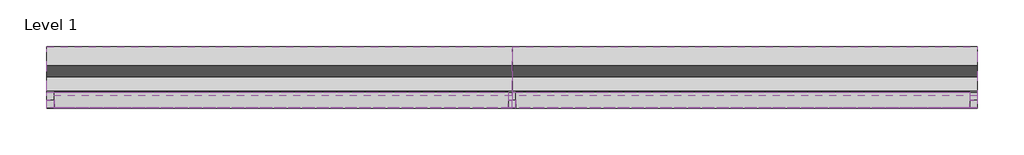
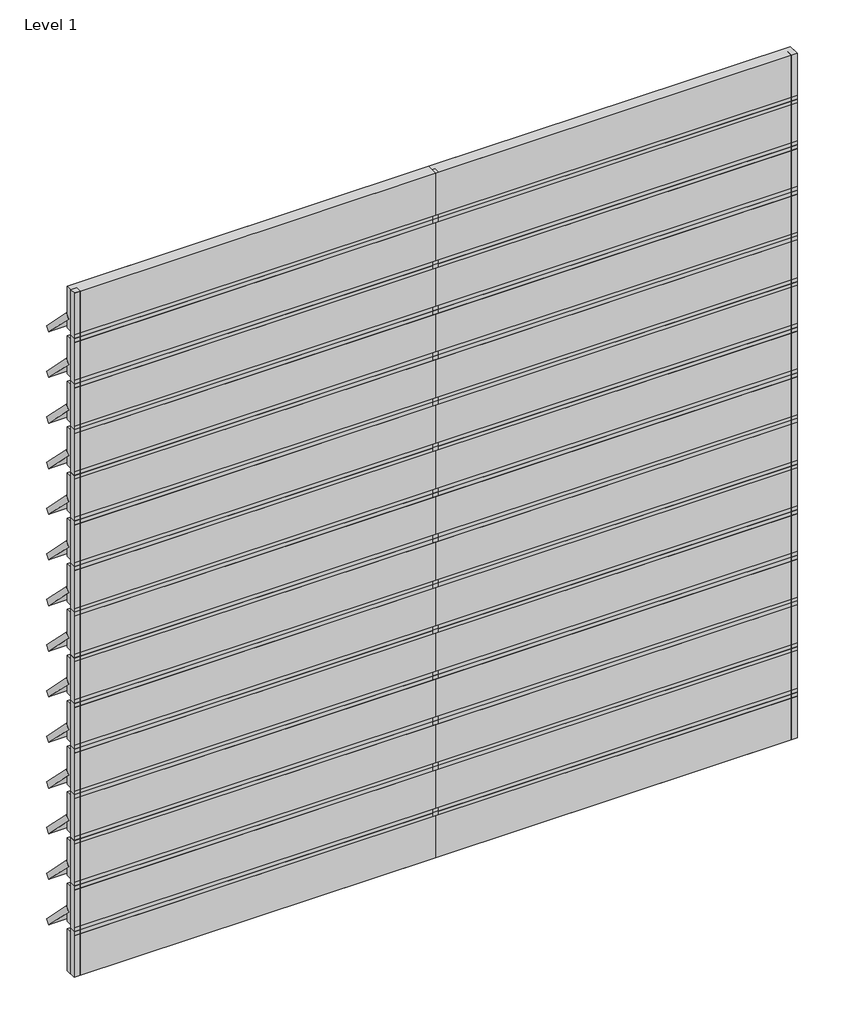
# One storey: 73 members, 60 plates.
"""IFC4 building model written with IfcOpenShell, lengths in millimetres."""

from ifc_helpers import new_model, si_unit, origin, place, context, project, spatial, transform, mapped, element, save
from components import rectangular_mullion_57607088, rectangular_mullion_3c6e38bc, rectangular_mullion_05cc9e47, rectangular_mullion_4a4034a1, empty_system_panel_empty_12cb41e9, empty_system_panel_empty_d99c1c9e, empty_system_panel_empty_0ce9900c

model = new_model("IFC4")

# Units and contexts
model_context = context("Model", 3, world=origin())
ifc_project = project(units=[si_unit("LENGTHUNIT", "METRE", prefix="MILLI")], contexts=[model_context])

# Site, building, storey
site = spatial("IfcSite", under=ifc_project)
building = spatial("IfcBuilding", under=site)
storey = spatial("IfcBuildingStorey", under=building, Name="Level 1", Elevation=0.0)

# Members
placement = place(None, origin())
rectangular_mullion_shape = rectangular_mullion_57607088(model_context)
element("IfcMember", 1, ObjectType="Rectangular Mullion : RSen_21_CWM_blade - cubic 400 - 45°_gen_duco projects", at=placement, inside=storey, context=model_context, shape_type="MappedRepresentation", body=[
    mapped(rectangular_mullion_shape, transform((3000.0, 3000.0, 400.0), x_axis=(0.0, 0.0, 1.0), y_axis=(0.0, 1.0, 0.0), z_axis=(-1.0, 0.0, 0.0))),
])
element("IfcMember", 2, ObjectType="Rectangular Mullion : RSen_21_CWM_blade - cubic 400 - 45°_gen_duco projects", at=placement, inside=storey, context=model_context, shape_type="MappedRepresentation", body=[
    mapped(rectangular_mullion_shape, transform((3000.0, 3000.0, 800.0), x_axis=(0.0, 0.0, 1.0), y_axis=(0.0, 1.0, 0.0), z_axis=(-1.0, 0.0, 0.0))),
])
element("IfcMember", 3, ObjectType="Rectangular Mullion : RSen_21_CWM_blade - cubic 400 - 45°_gen_duco projects", at=placement, inside=storey, context=model_context, shape_type="MappedRepresentation", body=[
    mapped(rectangular_mullion_shape, transform((3000.0, 3000.0, 1200.0), x_axis=(0.0, 0.0, 1.0), y_axis=(0.0, 1.0, 0.0), z_axis=(-1.0, 0.0, 0.0))),
])
element("IfcMember", 4, ObjectType="Rectangular Mullion : RSen_21_CWM_blade - cubic 400 - 45°_gen_duco projects", at=placement, inside=storey, context=model_context, shape_type="MappedRepresentation", body=[
    mapped(rectangular_mullion_shape, transform((3000.0, 3000.0, 1600.0), x_axis=(0.0, 0.0, 1.0), y_axis=(0.0, 1.0, 0.0), z_axis=(-1.0, 0.0, 0.0))),
])
element("IfcMember", 5, ObjectType="Rectangular Mullion : RSen_21_CWM_blade - cubic 400 - 45°_gen_duco projects", at=placement, inside=storey, context=model_context, shape_type="MappedRepresentation", body=[
    mapped(rectangular_mullion_shape, transform((3000.0, 3000.0, 2000.0), x_axis=(0.0, 0.0, 1.0), y_axis=(0.0, 1.0, 0.0), z_axis=(-1.0, 0.0, 0.0))),
])
element("IfcMember", 6, ObjectType="Rectangular Mullion : RSen_21_CWM_blade - cubic 400 - 45°_gen_duco projects", at=placement, inside=storey, context=model_context, shape_type="MappedRepresentation", body=[
    mapped(rectangular_mullion_shape, transform((3000.0, 3000.0, 2400.0), x_axis=(0.0, 0.0, 1.0), y_axis=(0.0, 1.0, 0.0), z_axis=(-1.0, 0.0, 0.0))),
])
element("IfcMember", 7, ObjectType="Rectangular Mullion : RSen_21_CWM_blade - cubic 400 - 45°_gen_duco projects", at=placement, inside=storey, context=model_context, shape_type="MappedRepresentation", body=[
    mapped(rectangular_mullion_shape, transform((3000.0, 3000.0, 2800.0), x_axis=(0.0, 0.0, 1.0), y_axis=(0.0, 1.0, 0.0), z_axis=(-1.0, 0.0, 0.0))),
])
element("IfcMember", 8, ObjectType="Rectangular Mullion : RSen_21_CWM_blade - cubic 400 - 45°_gen_duco projects", at=placement, inside=storey, context=model_context, shape_type="MappedRepresentation", body=[
    mapped(rectangular_mullion_shape, transform((3000.0, 3000.0, 3200.0), x_axis=(0.0, 0.0, 1.0), y_axis=(0.0, 1.0, 0.0), z_axis=(-1.0, 0.0, 0.0))),
])
element("IfcMember", 9, ObjectType="Rectangular Mullion : RSen_21_CWM_blade - cubic 400 - 45°_gen_duco projects", at=placement, inside=storey, context=model_context, shape_type="MappedRepresentation", body=[
    mapped(rectangular_mullion_shape, transform((3000.0, 3000.0, 3600.0), x_axis=(0.0, 0.0, 1.0), y_axis=(0.0, 1.0, 0.0), z_axis=(-1.0, 0.0, 0.0))),
])
element("IfcMember", 10, ObjectType="Rectangular Mullion : RSen_21_CWM_blade - cubic 400 - 45°_gen_duco projects", at=placement, inside=storey, context=model_context, shape_type="MappedRepresentation", body=[
    mapped(rectangular_mullion_shape, transform((3000.0, 3000.0, 4000.0), x_axis=(0.0, 0.0, 1.0), y_axis=(0.0, 1.0, 0.0), z_axis=(-1.0, 0.0, 0.0))),
])
element("IfcMember", 11, ObjectType="Rectangular Mullion : RSen_21_CWM_blade - cubic 400 - 45°_gen_duco projects", at=placement, inside=storey, context=model_context, shape_type="MappedRepresentation", body=[
    mapped(rectangular_mullion_shape, transform((3000.0, 3000.0, 4400.0), x_axis=(0.0, 0.0, 1.0), y_axis=(0.0, 1.0, 0.0), z_axis=(-1.0, 0.0, 0.0))),
])
element("IfcMember", 12, ObjectType="Rectangular Mullion : RSen_21_CWM_blade - cubic 400 - 45°_gen_duco projects", at=placement, inside=storey, context=model_context, shape_type="MappedRepresentation", body=[
    mapped(rectangular_mullion_shape, transform((3000.0, 3000.0, 4800.0), x_axis=(0.0, 0.0, 1.0), y_axis=(0.0, 1.0, 0.0), z_axis=(-1.0, 0.0, 0.0))),
])
element("IfcMember", 13, ObjectType="Rectangular Mullion : RSen_21_CWM_blade - cubic 400 - 45°_gen_duco projects", at=placement, inside=storey, context=model_context, shape_type="MappedRepresentation", body=[
    mapped(rectangular_mullion_shape, transform((3000.0, 3000.0, 5200.0), x_axis=(0.0, 0.0, 1.0), y_axis=(0.0, 1.0, 0.0), z_axis=(-1.0, 0.0, 0.0))),
])
element("IfcMember", 14, ObjectType="Rectangular Mullion : RSen_21_CWM_blade - cubic 400 - 45°_gen_duco projects", at=placement, inside=storey, context=model_context, shape_type="MappedRepresentation", body=[
    mapped(rectangular_mullion_shape, transform((3000.0, 3000.0, 5600.0), x_axis=(0.0, 0.0, 1.0), y_axis=(0.0, 1.0, 0.0), z_axis=(-1.0, 0.0, 0.0))),
])
element("IfcMember", 15, ObjectType="Rectangular Mullion : RSen_21_CWM_blade - cubic 400 - 45°_gen_duco projects", at=placement, inside=storey, context=model_context, shape_type="MappedRepresentation", body=[
    mapped(rectangular_mullion_shape, transform((0.0, 3000.0, 400.0), x_axis=(0.0, 0.0, 1.0), y_axis=(0.0, 1.0, 0.0), z_axis=(-1.0, 0.0, 0.0))),
])
element("IfcMember", 16, ObjectType="Rectangular Mullion : RSen_21_CWM_blade - cubic 400 - 45°_gen_duco projects", at=placement, inside=storey, context=model_context, shape_type="MappedRepresentation", body=[
    mapped(rectangular_mullion_shape, transform((0.0, 3000.0, 800.0), x_axis=(0.0, 0.0, 1.0), y_axis=(0.0, 1.0, 0.0), z_axis=(-1.0, 0.0, 0.0))),
])
element("IfcMember", 17, ObjectType="Rectangular Mullion : RSen_21_CWM_blade - cubic 400 - 45°_gen_duco projects", at=placement, inside=storey, context=model_context, shape_type="MappedRepresentation", body=[
    mapped(rectangular_mullion_shape, transform((0.0, 3000.0, 1200.0), x_axis=(0.0, 0.0, 1.0), y_axis=(0.0, 1.0, 0.0), z_axis=(-1.0, 0.0, 0.0))),
])
element("IfcMember", 18, ObjectType="Rectangular Mullion : RSen_21_CWM_blade - cubic 400 - 45°_gen_duco projects", at=placement, inside=storey, context=model_context, shape_type="MappedRepresentation", body=[
    mapped(rectangular_mullion_shape, transform((0.0, 3000.0, 1600.0), x_axis=(0.0, 0.0, 1.0), y_axis=(0.0, 1.0, 0.0), z_axis=(-1.0, 0.0, 0.0))),
])
element("IfcMember", 19, ObjectType="Rectangular Mullion : RSen_21_CWM_blade - cubic 400 - 45°_gen_duco projects", at=placement, inside=storey, context=model_context, shape_type="MappedRepresentation", body=[
    mapped(rectangular_mullion_shape, transform((0.0, 3000.0, 2000.0), x_axis=(0.0, 0.0, 1.0), y_axis=(0.0, 1.0, 0.0), z_axis=(-1.0, 0.0, 0.0))),
])
element("IfcMember", 20, ObjectType="Rectangular Mullion : RSen_21_CWM_blade - cubic 400 - 45°_gen_duco projects", at=placement, inside=storey, context=model_context, shape_type="MappedRepresentation", body=[
    mapped(rectangular_mullion_shape, transform((0.0, 3000.0, 2400.0), x_axis=(0.0, 0.0, 1.0), y_axis=(0.0, 1.0, 0.0), z_axis=(-1.0, 0.0, 0.0))),
])
element("IfcMember", 21, ObjectType="Rectangular Mullion : RSen_21_CWM_blade - cubic 400 - 45°_gen_duco projects", at=placement, inside=storey, context=model_context, shape_type="MappedRepresentation", body=[
    mapped(rectangular_mullion_shape, transform((0.0, 3000.0, 2800.0), x_axis=(0.0, 0.0, 1.0), y_axis=(0.0, 1.0, 0.0), z_axis=(-1.0, 0.0, 0.0))),
])
element("IfcMember", 22, ObjectType="Rectangular Mullion : RSen_21_CWM_blade - cubic 400 - 45°_gen_duco projects", at=placement, inside=storey, context=model_context, shape_type="MappedRepresentation", body=[
    mapped(rectangular_mullion_shape, transform((0.0, 3000.0, 3200.0), x_axis=(0.0, 0.0, 1.0), y_axis=(0.0, 1.0, 0.0), z_axis=(-1.0, 0.0, 0.0))),
])
element("IfcMember", 23, ObjectType="Rectangular Mullion : RSen_21_CWM_blade - cubic 400 - 45°_gen_duco projects", at=placement, inside=storey, context=model_context, shape_type="MappedRepresentation", body=[
    mapped(rectangular_mullion_shape, transform((0.0, 3000.0, 3600.0), x_axis=(0.0, 0.0, 1.0), y_axis=(0.0, 1.0, 0.0), z_axis=(-1.0, 0.0, 0.0))),
])
element("IfcMember", 24, ObjectType="Rectangular Mullion : RSen_21_CWM_blade - cubic 400 - 45°_gen_duco projects", at=placement, inside=storey, context=model_context, shape_type="MappedRepresentation", body=[
    mapped(rectangular_mullion_shape, transform((0.0, 3000.0, 4000.0), x_axis=(0.0, 0.0, 1.0), y_axis=(0.0, 1.0, 0.0), z_axis=(-1.0, 0.0, 0.0))),
])
element("IfcMember", 25, ObjectType="Rectangular Mullion : RSen_21_CWM_blade - cubic 400 - 45°_gen_duco projects", at=placement, inside=storey, context=model_context, shape_type="MappedRepresentation", body=[
    mapped(rectangular_mullion_shape, transform((0.0, 3000.0, 4400.0), x_axis=(0.0, 0.0, 1.0), y_axis=(0.0, 1.0, 0.0), z_axis=(-1.0, 0.0, 0.0))),
])
element("IfcMember", 26, ObjectType="Rectangular Mullion : RSen_21_CWM_blade - cubic 400 - 45°_gen_duco projects", at=placement, inside=storey, context=model_context, shape_type="MappedRepresentation", body=[
    mapped(rectangular_mullion_shape, transform((0.0, 3000.0, 4800.0), x_axis=(0.0, 0.0, 1.0), y_axis=(0.0, 1.0, 0.0), z_axis=(-1.0, 0.0, 0.0))),
])
element("IfcMember", 27, ObjectType="Rectangular Mullion : RSen_21_CWM_blade - cubic 400 - 45°_gen_duco projects", at=placement, inside=storey, context=model_context, shape_type="MappedRepresentation", body=[
    mapped(rectangular_mullion_shape, transform((0.0, 3000.0, 5200.0), x_axis=(0.0, 0.0, 1.0), y_axis=(0.0, 1.0, 0.0), z_axis=(-1.0, 0.0, 0.0))),
])
element("IfcMember", 28, ObjectType="Rectangular Mullion : RSen_21_CWM_blade - cubic 400 - 45°_gen_duco projects", at=placement, inside=storey, context=model_context, shape_type="MappedRepresentation", body=[
    mapped(rectangular_mullion_shape, transform((0.0, 3000.0, 5600.0), x_axis=(0.0, 0.0, 1.0), y_axis=(0.0, 1.0, 0.0), z_axis=(-1.0, 0.0, 0.0))),
])
rectangular_mullion_2_shape = rectangular_mullion_3c6e38bc(model_context)
element("IfcMember", 29, ObjectType="Rectangular Mullion : RSen_21_CWM_support profile 50x50_gen_duco projects", at=placement, inside=storey, context=model_context, shape_type="MappedRepresentation", body=[
    mapped(rectangular_mullion_2_shape, transform((3000.0, 3000.0, 0.0), x_axis=(-1.0, 0.0, 0.0), y_axis=(0.0, 1.0, 0.0), z_axis=(0.0, 0.0, -1.0))),
])
element("IfcMember", 30, ObjectType="Rectangular Mullion : RSen_21_CWM_support profile 50x50_gen_duco projects", at=placement, inside=storey, context=model_context, shape_type="MappedRepresentation", body=[
    mapped(rectangular_mullion_2_shape, transform((3000.0, 3000.0, 400.0), x_axis=(-1.0, 0.0, 0.0), y_axis=(0.0, 1.0, 0.0), z_axis=(0.0, 0.0, -1.0))),
])
element("IfcMember", 31, ObjectType="Rectangular Mullion : RSen_21_CWM_support profile 50x50_gen_duco projects", at=placement, inside=storey, context=model_context, shape_type="MappedRepresentation", body=[
    mapped(rectangular_mullion_2_shape, transform((3000.0, 3000.0, 800.0), x_axis=(-1.0, 0.0, 0.0), y_axis=(0.0, 1.0, 0.0), z_axis=(0.0, 0.0, -1.0))),
])
element("IfcMember", 32, ObjectType="Rectangular Mullion : RSen_21_CWM_support profile 50x50_gen_duco projects", at=placement, inside=storey, context=model_context, shape_type="MappedRepresentation", body=[
    mapped(rectangular_mullion_2_shape, transform((3000.0, 3000.0, 1200.0), x_axis=(-1.0, 0.0, 0.0), y_axis=(0.0, 1.0, 0.0), z_axis=(0.0, 0.0, -1.0))),
])
element("IfcMember", 33, ObjectType="Rectangular Mullion : RSen_21_CWM_support profile 50x50_gen_duco projects", at=placement, inside=storey, context=model_context, shape_type="MappedRepresentation", body=[
    mapped(rectangular_mullion_2_shape, transform((3000.0, 3000.0, 1600.0), x_axis=(-1.0, 0.0, 0.0), y_axis=(0.0, 1.0, 0.0), z_axis=(0.0, 0.0, -1.0))),
])
element("IfcMember", 34, ObjectType="Rectangular Mullion : RSen_21_CWM_support profile 50x50_gen_duco projects", at=placement, inside=storey, context=model_context, shape_type="MappedRepresentation", body=[
    mapped(rectangular_mullion_2_shape, transform((3000.0, 3000.0, 2000.0), x_axis=(-1.0, 0.0, 0.0), y_axis=(0.0, 1.0, 0.0), z_axis=(0.0, 0.0, -1.0))),
])
element("IfcMember", 35, ObjectType="Rectangular Mullion : RSen_21_CWM_support profile 50x50_gen_duco projects", at=placement, inside=storey, context=model_context, shape_type="MappedRepresentation", body=[
    mapped(rectangular_mullion_2_shape, transform((3000.0, 3000.0, 2400.0), x_axis=(-1.0, 0.0, 0.0), y_axis=(0.0, 1.0, 0.0), z_axis=(0.0, 0.0, -1.0))),
])
element("IfcMember", 36, ObjectType="Rectangular Mullion : RSen_21_CWM_support profile 50x50_gen_duco projects", at=placement, inside=storey, context=model_context, shape_type="MappedRepresentation", body=[
    mapped(rectangular_mullion_2_shape, transform((3000.0, 3000.0, 2800.0), x_axis=(-1.0, 0.0, 0.0), y_axis=(0.0, 1.0, 0.0), z_axis=(0.0, 0.0, -1.0))),
])
element("IfcMember", 37, ObjectType="Rectangular Mullion : RSen_21_CWM_support profile 50x50_gen_duco projects", at=placement, inside=storey, context=model_context, shape_type="MappedRepresentation", body=[
    mapped(rectangular_mullion_2_shape, transform((3000.0, 3000.0, 3200.0), x_axis=(-1.0, 0.0, 0.0), y_axis=(0.0, 1.0, 0.0), z_axis=(0.0, 0.0, -1.0))),
])
element("IfcMember", 38, ObjectType="Rectangular Mullion : RSen_21_CWM_support profile 50x50_gen_duco projects", at=placement, inside=storey, context=model_context, shape_type="MappedRepresentation", body=[
    mapped(rectangular_mullion_2_shape, transform((3000.0, 3000.0, 3600.0), x_axis=(-1.0, 0.0, 0.0), y_axis=(0.0, 1.0, 0.0), z_axis=(0.0, 0.0, -1.0))),
])
element("IfcMember", 39, ObjectType="Rectangular Mullion : RSen_21_CWM_support profile 50x50_gen_duco projects", at=placement, inside=storey, context=model_context, shape_type="MappedRepresentation", body=[
    mapped(rectangular_mullion_2_shape, transform((3000.0, 3000.0, 4000.0), x_axis=(-1.0, 0.0, 0.0), y_axis=(0.0, 1.0, 0.0), z_axis=(0.0, 0.0, -1.0))),
])
element("IfcMember", 40, ObjectType="Rectangular Mullion : RSen_21_CWM_support profile 50x50_gen_duco projects", at=placement, inside=storey, context=model_context, shape_type="MappedRepresentation", body=[
    mapped(rectangular_mullion_2_shape, transform((3000.0, 3000.0, 4400.0), x_axis=(-1.0, 0.0, 0.0), y_axis=(0.0, 1.0, 0.0), z_axis=(0.0, 0.0, -1.0))),
])
element("IfcMember", 41, ObjectType="Rectangular Mullion : RSen_21_CWM_support profile 50x50_gen_duco projects", at=placement, inside=storey, context=model_context, shape_type="MappedRepresentation", body=[
    mapped(rectangular_mullion_2_shape, transform((3000.0, 3000.0, 4800.0), x_axis=(-1.0, 0.0, 0.0), y_axis=(0.0, 1.0, 0.0), z_axis=(0.0, 0.0, -1.0))),
])
element("IfcMember", 42, ObjectType="Rectangular Mullion : RSen_21_CWM_support profile 50x50_gen_duco projects", at=placement, inside=storey, context=model_context, shape_type="MappedRepresentation", body=[
    mapped(rectangular_mullion_2_shape, transform((3000.0, 3000.0, 5200.0), x_axis=(-1.0, 0.0, 0.0), y_axis=(0.0, 1.0, 0.0), z_axis=(0.0, 0.0, -1.0))),
])
element("IfcMember", 43, ObjectType="Rectangular Mullion : RSen_21_CWM_support profile 50x50_gen_duco projects", at=placement, inside=storey, context=model_context, shape_type="MappedRepresentation", body=[
    mapped(rectangular_mullion_2_shape, transform((3000.0, 3000.0, 5600.0), x_axis=(-1.0, 0.0, 0.0), y_axis=(0.0, 1.0, 0.0), z_axis=(0.0, 0.0, -1.0))),
])
rectangular_mullion_3_shape = rectangular_mullion_05cc9e47(model_context)
element("IfcMember", 44, ObjectType="Rectangular Mullion : RSen_21_CWM_support profile 50x50 - left_gen_duco projects", at=placement, inside=storey, context=model_context, shape_type="MappedRepresentation", body=[
    mapped(rectangular_mullion_3_shape, transform((0.0, 3000.0, 0.0), x_axis=(-1.0, 0.0, 0.0), y_axis=(0.0, 1.0, 0.0), z_axis=(0.0, 0.0, -1.0))),
])
rectangular_mullion_4_shape = rectangular_mullion_4a4034a1(model_context)
element("IfcMember", 45, ObjectType="Rectangular Mullion : RSen_21_CWM_support profile 50x50 - right_gen_duco projects", at=placement, inside=storey, context=model_context, shape_type="MappedRepresentation", body=[
    mapped(rectangular_mullion_4_shape, transform((6000.0, 3000.0, 6000.0), x_axis=(1.0, 0.0, 0.0), y_axis=(0.0, 1.0, 0.0), z_axis=(0.0, 0.0, 1.0))),
])
element("IfcMember", 46, ObjectType="Rectangular Mullion : RSen_21_CWM_support profile 50x50 - left_gen_duco projects", at=placement, inside=storey, context=model_context, shape_type="MappedRepresentation", body=[
    mapped(rectangular_mullion_3_shape, transform((0.0, 3000.0, 400.0), x_axis=(-1.0, 0.0, 0.0), y_axis=(0.0, 1.0, 0.0), z_axis=(0.0, 0.0, -1.0))),
])
element("IfcMember", 47, ObjectType="Rectangular Mullion : RSen_21_CWM_support profile 50x50 - left_gen_duco projects", at=placement, inside=storey, context=model_context, shape_type="MappedRepresentation", body=[
    mapped(rectangular_mullion_3_shape, transform((0.0, 3000.0, 800.0), x_axis=(-1.0, 0.0, 0.0), y_axis=(0.0, 1.0, 0.0), z_axis=(0.0, 0.0, -1.0))),
])
element("IfcMember", 48, ObjectType="Rectangular Mullion : RSen_21_CWM_support profile 50x50 - left_gen_duco projects", at=placement, inside=storey, context=model_context, shape_type="MappedRepresentation", body=[
    mapped(rectangular_mullion_3_shape, transform((0.0, 3000.0, 1200.0), x_axis=(-1.0, 0.0, 0.0), y_axis=(0.0, 1.0, 0.0), z_axis=(0.0, 0.0, -1.0))),
])
element("IfcMember", 49, ObjectType="Rectangular Mullion : RSen_21_CWM_support profile 50x50 - left_gen_duco projects", at=placement, inside=storey, context=model_context, shape_type="MappedRepresentation", body=[
    mapped(rectangular_mullion_3_shape, transform((0.0, 3000.0, 1600.0), x_axis=(-1.0, 0.0, 0.0), y_axis=(0.0, 1.0, 0.0), z_axis=(0.0, 0.0, -1.0))),
])
element("IfcMember", 50, ObjectType="Rectangular Mullion : RSen_21_CWM_support profile 50x50 - left_gen_duco projects", at=placement, inside=storey, context=model_context, shape_type="MappedRepresentation", body=[
    mapped(rectangular_mullion_3_shape, transform((0.0, 3000.0, 2000.0), x_axis=(-1.0, 0.0, 0.0), y_axis=(0.0, 1.0, 0.0), z_axis=(0.0, 0.0, -1.0))),
])
element("IfcMember", 51, ObjectType="Rectangular Mullion : RSen_21_CWM_support profile 50x50 - left_gen_duco projects", at=placement, inside=storey, context=model_context, shape_type="MappedRepresentation", body=[
    mapped(rectangular_mullion_3_shape, transform((0.0, 3000.0, 2400.0), x_axis=(-1.0, 0.0, 0.0), y_axis=(0.0, 1.0, 0.0), z_axis=(0.0, 0.0, -1.0))),
])
element("IfcMember", 52, ObjectType="Rectangular Mullion : RSen_21_CWM_support profile 50x50 - left_gen_duco projects", at=placement, inside=storey, context=model_context, shape_type="MappedRepresentation", body=[
    mapped(rectangular_mullion_3_shape, transform((0.0, 3000.0, 2800.0), x_axis=(-1.0, 0.0, 0.0), y_axis=(0.0, 1.0, 0.0), z_axis=(0.0, 0.0, -1.0))),
])
element("IfcMember", 53, ObjectType="Rectangular Mullion : RSen_21_CWM_support profile 50x50 - left_gen_duco projects", at=placement, inside=storey, context=model_context, shape_type="MappedRepresentation", body=[
    mapped(rectangular_mullion_3_shape, transform((0.0, 3000.0, 3200.0), x_axis=(-1.0, 0.0, 0.0), y_axis=(0.0, 1.0, 0.0), z_axis=(0.0, 0.0, -1.0))),
])
element("IfcMember", 54, ObjectType="Rectangular Mullion : RSen_21_CWM_support profile 50x50 - left_gen_duco projects", at=placement, inside=storey, context=model_context, shape_type="MappedRepresentation", body=[
    mapped(rectangular_mullion_3_shape, transform((0.0, 3000.0, 3600.0), x_axis=(-1.0, 0.0, 0.0), y_axis=(0.0, 1.0, 0.0), z_axis=(0.0, 0.0, -1.0))),
])
element("IfcMember", 55, ObjectType="Rectangular Mullion : RSen_21_CWM_support profile 50x50 - left_gen_duco projects", at=placement, inside=storey, context=model_context, shape_type="MappedRepresentation", body=[
    mapped(rectangular_mullion_3_shape, transform((0.0, 3000.0, 4000.0), x_axis=(-1.0, 0.0, 0.0), y_axis=(0.0, 1.0, 0.0), z_axis=(0.0, 0.0, -1.0))),
])
element("IfcMember", 56, ObjectType="Rectangular Mullion : RSen_21_CWM_support profile 50x50 - left_gen_duco projects", at=placement, inside=storey, context=model_context, shape_type="MappedRepresentation", body=[
    mapped(rectangular_mullion_3_shape, transform((0.0, 3000.0, 4400.0), x_axis=(-1.0, 0.0, 0.0), y_axis=(0.0, 1.0, 0.0), z_axis=(0.0, 0.0, -1.0))),
])
element("IfcMember", 57, ObjectType="Rectangular Mullion : RSen_21_CWM_support profile 50x50 - left_gen_duco projects", at=placement, inside=storey, context=model_context, shape_type="MappedRepresentation", body=[
    mapped(rectangular_mullion_3_shape, transform((0.0, 3000.0, 4800.0), x_axis=(-1.0, 0.0, 0.0), y_axis=(0.0, 1.0, 0.0), z_axis=(0.0, 0.0, -1.0))),
])
element("IfcMember", 58, ObjectType="Rectangular Mullion : RSen_21_CWM_support profile 50x50 - left_gen_duco projects", at=placement, inside=storey, context=model_context, shape_type="MappedRepresentation", body=[
    mapped(rectangular_mullion_3_shape, transform((0.0, 3000.0, 5200.0), x_axis=(-1.0, 0.0, 0.0), y_axis=(0.0, 1.0, 0.0), z_axis=(0.0, 0.0, -1.0))),
])
element("IfcMember", 59, ObjectType="Rectangular Mullion : RSen_21_CWM_support profile 50x50 - left_gen_duco projects", at=placement, inside=storey, context=model_context, shape_type="MappedRepresentation", body=[
    mapped(rectangular_mullion_3_shape, transform((0.0, 3000.0, 5600.0), x_axis=(-1.0, 0.0, 0.0), y_axis=(0.0, 1.0, 0.0), z_axis=(0.0, 0.0, -1.0))),
])
element("IfcMember", 60, ObjectType="Rectangular Mullion : RSen_21_CWM_support profile 50x50 - right_gen_duco projects", at=placement, inside=storey, context=model_context, shape_type="MappedRepresentation", body=[
    mapped(rectangular_mullion_4_shape, transform((6000.0, 3000.0, 400.0), x_axis=(1.0, 0.0, 0.0), y_axis=(0.0, 1.0, 0.0), z_axis=(0.0, 0.0, 1.0))),
])
element("IfcMember", 61, ObjectType="Rectangular Mullion : RSen_21_CWM_support profile 50x50 - right_gen_duco projects", at=placement, inside=storey, context=model_context, shape_type="MappedRepresentation", body=[
    mapped(rectangular_mullion_4_shape, transform((6000.0, 3000.0, 800.0), x_axis=(1.0, 0.0, 0.0), y_axis=(0.0, 1.0, 0.0), z_axis=(0.0, 0.0, 1.0))),
])
element("IfcMember", 62, ObjectType="Rectangular Mullion : RSen_21_CWM_support profile 50x50 - right_gen_duco projects", at=placement, inside=storey, context=model_context, shape_type="MappedRepresentation", body=[
    mapped(rectangular_mullion_4_shape, transform((6000.0, 3000.0, 1200.0), x_axis=(1.0, 0.0, 0.0), y_axis=(0.0, 1.0, 0.0), z_axis=(0.0, 0.0, 1.0))),
])
element("IfcMember", 63, ObjectType="Rectangular Mullion : RSen_21_CWM_support profile 50x50 - right_gen_duco projects", at=placement, inside=storey, context=model_context, shape_type="MappedRepresentation", body=[
    mapped(rectangular_mullion_4_shape, transform((6000.0, 3000.0, 1600.0), x_axis=(1.0, 0.0, 0.0), y_axis=(0.0, 1.0, 0.0), z_axis=(0.0, 0.0, 1.0))),
])
element("IfcMember", 64, ObjectType="Rectangular Mullion : RSen_21_CWM_support profile 50x50 - right_gen_duco projects", at=placement, inside=storey, context=model_context, shape_type="MappedRepresentation", body=[
    mapped(rectangular_mullion_4_shape, transform((6000.0, 3000.0, 2000.0), x_axis=(1.0, 0.0, 0.0), y_axis=(0.0, 1.0, 0.0), z_axis=(0.0, 0.0, 1.0))),
])
element("IfcMember", 65, ObjectType="Rectangular Mullion : RSen_21_CWM_support profile 50x50 - right_gen_duco projects", at=placement, inside=storey, context=model_context, shape_type="MappedRepresentation", body=[
    mapped(rectangular_mullion_4_shape, transform((6000.0, 3000.0, 2400.0), x_axis=(1.0, 0.0, 0.0), y_axis=(0.0, 1.0, 0.0), z_axis=(0.0, 0.0, 1.0))),
])
element("IfcMember", 66, ObjectType="Rectangular Mullion : RSen_21_CWM_support profile 50x50 - right_gen_duco projects", at=placement, inside=storey, context=model_context, shape_type="MappedRepresentation", body=[
    mapped(rectangular_mullion_4_shape, transform((6000.0, 3000.0, 2800.0), x_axis=(1.0, 0.0, 0.0), y_axis=(0.0, 1.0, 0.0), z_axis=(0.0, 0.0, 1.0))),
])
element("IfcMember", 67, ObjectType="Rectangular Mullion : RSen_21_CWM_support profile 50x50 - right_gen_duco projects", at=placement, inside=storey, context=model_context, shape_type="MappedRepresentation", body=[
    mapped(rectangular_mullion_4_shape, transform((6000.0, 3000.0, 3200.0), x_axis=(1.0, 0.0, 0.0), y_axis=(0.0, 1.0, 0.0), z_axis=(0.0, 0.0, 1.0))),
])
element("IfcMember", 68, ObjectType="Rectangular Mullion : RSen_21_CWM_support profile 50x50 - right_gen_duco projects", at=placement, inside=storey, context=model_context, shape_type="MappedRepresentation", body=[
    mapped(rectangular_mullion_4_shape, transform((6000.0, 3000.0, 3600.0), x_axis=(1.0, 0.0, 0.0), y_axis=(0.0, 1.0, 0.0), z_axis=(0.0, 0.0, 1.0))),
])
element("IfcMember", 69, ObjectType="Rectangular Mullion : RSen_21_CWM_support profile 50x50 - right_gen_duco projects", at=placement, inside=storey, context=model_context, shape_type="MappedRepresentation", body=[
    mapped(rectangular_mullion_4_shape, transform((6000.0, 3000.0, 4000.0), x_axis=(1.0, 0.0, 0.0), y_axis=(0.0, 1.0, 0.0), z_axis=(0.0, 0.0, 1.0))),
])
element("IfcMember", 70, ObjectType="Rectangular Mullion : RSen_21_CWM_support profile 50x50 - right_gen_duco projects", at=placement, inside=storey, context=model_context, shape_type="MappedRepresentation", body=[
    mapped(rectangular_mullion_4_shape, transform((6000.0, 3000.0, 4400.0), x_axis=(1.0, 0.0, 0.0), y_axis=(0.0, 1.0, 0.0), z_axis=(0.0, 0.0, 1.0))),
])
element("IfcMember", 71, ObjectType="Rectangular Mullion : RSen_21_CWM_support profile 50x50 - right_gen_duco projects", at=placement, inside=storey, context=model_context, shape_type="MappedRepresentation", body=[
    mapped(rectangular_mullion_4_shape, transform((6000.0, 3000.0, 4800.0), x_axis=(1.0, 0.0, 0.0), y_axis=(0.0, 1.0, 0.0), z_axis=(0.0, 0.0, 1.0))),
])
element("IfcMember", 72, ObjectType="Rectangular Mullion : RSen_21_CWM_support profile 50x50 - right_gen_duco projects", at=placement, inside=storey, context=model_context, shape_type="MappedRepresentation", body=[
    mapped(rectangular_mullion_4_shape, transform((6000.0, 3000.0, 5200.0), x_axis=(1.0, 0.0, 0.0), y_axis=(0.0, 1.0, 0.0), z_axis=(0.0, 0.0, 1.0))),
])
element("IfcMember", 73, ObjectType="Rectangular Mullion : RSen_21_CWM_support profile 50x50 - right_gen_duco projects", at=placement, inside=storey, context=model_context, shape_type="MappedRepresentation", body=[
    mapped(rectangular_mullion_4_shape, transform((6000.0, 3000.0, 5600.0), x_axis=(1.0, 0.0, 0.0), y_axis=(0.0, 1.0, 0.0), z_axis=(0.0, 0.0, 1.0))),
])

# Plates
empty_system_panel_empty_shape = empty_system_panel_empty_12cb41e9(model_context)
element("IfcPlate", 74, ObjectType="Empty System Panel : Empty", at=placement, inside=storey, context=model_context, shape_type="MappedRepresentation", body=[
    mapped(empty_system_panel_empty_shape, transform((4500.0, 3000.0, 0.0), x_axis=(-1.0, 0.0, 0.0), y_axis=(0.0, -1.0, 0.0), z_axis=(0.0, 0.0, 1.0))),
])
element("IfcPlate", 75, ObjectType="Empty System Panel : Empty", at=placement, inside=storey, context=model_context, shape_type="MappedRepresentation", body=[
    mapped(empty_system_panel_empty_shape, transform((1500.0, 3000.0, 0.0), x_axis=(-1.0, 0.0, 0.0), y_axis=(0.0, -1.0, 0.0), z_axis=(0.0, 0.0, 1.0))),
])
element("IfcPlate", 76, ObjectType="Empty System Panel : Empty", at=placement, inside=storey, context=model_context, shape_type="MappedRepresentation", body=[
    mapped(empty_system_panel_empty_shape, transform((4500.0, 3000.0, 5633.9411255), x_axis=(-1.0, 0.0, 0.0), y_axis=(0.0, -1.0, 0.0), z_axis=(0.0, 0.0, 1.0))),
])
element("IfcPlate", 77, ObjectType="Empty System Panel : Empty", at=placement, inside=storey, context=model_context, shape_type="MappedRepresentation", body=[
    mapped(empty_system_panel_empty_shape, transform((1500.0, 3000.0, 5633.9411255), x_axis=(-1.0, 0.0, 0.0), y_axis=(0.0, -1.0, 0.0), z_axis=(0.0, 0.0, 1.0))),
])
empty_system_panel_empty_2_shape = empty_system_panel_empty_d99c1c9e(model_context)
element("IfcPlate", 78, ObjectType="Empty System Panel : Empty", at=placement, inside=storey, context=model_context, shape_type="MappedRepresentation", body=[
    mapped(empty_system_panel_empty_2_shape, transform((4500.0, 3000.0, 433.9411255), x_axis=(-1.0, 0.0, 0.0), y_axis=(0.0, -1.0, 0.0), z_axis=(0.0, 0.0, 1.0))),
])
element("IfcPlate", 79, ObjectType="Empty System Panel : Empty", at=placement, inside=storey, context=model_context, shape_type="MappedRepresentation", body=[
    mapped(empty_system_panel_empty_2_shape, transform((1500.0, 3000.0, 433.9411255), x_axis=(-1.0, 0.0, 0.0), y_axis=(0.0, -1.0, 0.0), z_axis=(0.0, 0.0, 1.0))),
])
element("IfcPlate", 80, ObjectType="Empty System Panel : Empty", at=placement, inside=storey, context=model_context, shape_type="MappedRepresentation", body=[
    mapped(empty_system_panel_empty_2_shape, transform((4500.0, 3000.0, 833.9411255), x_axis=(-1.0, 0.0, 0.0), y_axis=(0.0, -1.0, 0.0), z_axis=(0.0, 0.0, 1.0))),
])
element("IfcPlate", 81, ObjectType="Empty System Panel : Empty", at=placement, inside=storey, context=model_context, shape_type="MappedRepresentation", body=[
    mapped(empty_system_panel_empty_2_shape, transform((1500.0, 3000.0, 833.9411255), x_axis=(-1.0, 0.0, 0.0), y_axis=(0.0, -1.0, 0.0), z_axis=(0.0, 0.0, 1.0))),
])
element("IfcPlate", 82, ObjectType="Empty System Panel : Empty", at=placement, inside=storey, context=model_context, shape_type="MappedRepresentation", body=[
    mapped(empty_system_panel_empty_2_shape, transform((4500.0, 3000.0, 1233.9411255), x_axis=(-1.0, 0.0, 0.0), y_axis=(0.0, -1.0, 0.0), z_axis=(0.0, 0.0, 1.0))),
])
element("IfcPlate", 83, ObjectType="Empty System Panel : Empty", at=placement, inside=storey, context=model_context, shape_type="MappedRepresentation", body=[
    mapped(empty_system_panel_empty_2_shape, transform((1500.0, 3000.0, 1233.9411255), x_axis=(-1.0, 0.0, 0.0), y_axis=(0.0, -1.0, 0.0), z_axis=(0.0, 0.0, 1.0))),
])
element("IfcPlate", 84, ObjectType="Empty System Panel : Empty", at=placement, inside=storey, context=model_context, shape_type="MappedRepresentation", body=[
    mapped(empty_system_panel_empty_2_shape, transform((4500.0, 3000.0, 1633.9411255), x_axis=(-1.0, 0.0, 0.0), y_axis=(0.0, -1.0, 0.0), z_axis=(0.0, 0.0, 1.0))),
])
element("IfcPlate", 85, ObjectType="Empty System Panel : Empty", at=placement, inside=storey, context=model_context, shape_type="MappedRepresentation", body=[
    mapped(empty_system_panel_empty_2_shape, transform((1500.0, 3000.0, 1633.9411255), x_axis=(-1.0, 0.0, 0.0), y_axis=(0.0, -1.0, 0.0), z_axis=(0.0, 0.0, 1.0))),
])
element("IfcPlate", 86, ObjectType="Empty System Panel : Empty", at=placement, inside=storey, context=model_context, shape_type="MappedRepresentation", body=[
    mapped(empty_system_panel_empty_2_shape, transform((4500.0, 3000.0, 2033.9411255), x_axis=(-1.0, 0.0, 0.0), y_axis=(0.0, -1.0, 0.0), z_axis=(0.0, 0.0, 1.0))),
])
element("IfcPlate", 87, ObjectType="Empty System Panel : Empty", at=placement, inside=storey, context=model_context, shape_type="MappedRepresentation", body=[
    mapped(empty_system_panel_empty_2_shape, transform((1500.0, 3000.0, 2033.9411255), x_axis=(-1.0, 0.0, 0.0), y_axis=(0.0, -1.0, 0.0), z_axis=(0.0, 0.0, 1.0))),
])
element("IfcPlate", 88, ObjectType="Empty System Panel : Empty", at=placement, inside=storey, context=model_context, shape_type="MappedRepresentation", body=[
    mapped(empty_system_panel_empty_2_shape, transform((4500.0, 3000.0, 2433.9411255), x_axis=(-1.0, 0.0, 0.0), y_axis=(0.0, -1.0, 0.0), z_axis=(0.0, 0.0, 1.0))),
])
element("IfcPlate", 89, ObjectType="Empty System Panel : Empty", at=placement, inside=storey, context=model_context, shape_type="MappedRepresentation", body=[
    mapped(empty_system_panel_empty_2_shape, transform((1500.0, 3000.0, 2433.9411255), x_axis=(-1.0, 0.0, 0.0), y_axis=(0.0, -1.0, 0.0), z_axis=(0.0, 0.0, 1.0))),
])
element("IfcPlate", 90, ObjectType="Empty System Panel : Empty", at=placement, inside=storey, context=model_context, shape_type="MappedRepresentation", body=[
    mapped(empty_system_panel_empty_2_shape, transform((4500.0, 3000.0, 2833.9411255), x_axis=(-1.0, 0.0, 0.0), y_axis=(0.0, -1.0, 0.0), z_axis=(0.0, 0.0, 1.0))),
])
element("IfcPlate", 91, ObjectType="Empty System Panel : Empty", at=placement, inside=storey, context=model_context, shape_type="MappedRepresentation", body=[
    mapped(empty_system_panel_empty_2_shape, transform((1500.0, 3000.0, 2833.9411255), x_axis=(-1.0, 0.0, 0.0), y_axis=(0.0, -1.0, 0.0), z_axis=(0.0, 0.0, 1.0))),
])
element("IfcPlate", 92, ObjectType="Empty System Panel : Empty", at=placement, inside=storey, context=model_context, shape_type="MappedRepresentation", body=[
    mapped(empty_system_panel_empty_2_shape, transform((4500.0, 3000.0, 3233.9411255), x_axis=(-1.0, 0.0, 0.0), y_axis=(0.0, -1.0, 0.0), z_axis=(0.0, 0.0, 1.0))),
])
element("IfcPlate", 93, ObjectType="Empty System Panel : Empty", at=placement, inside=storey, context=model_context, shape_type="MappedRepresentation", body=[
    mapped(empty_system_panel_empty_2_shape, transform((1500.0, 3000.0, 3233.9411255), x_axis=(-1.0, 0.0, 0.0), y_axis=(0.0, -1.0, 0.0), z_axis=(0.0, 0.0, 1.0))),
])
element("IfcPlate", 94, ObjectType="Empty System Panel : Empty", at=placement, inside=storey, context=model_context, shape_type="MappedRepresentation", body=[
    mapped(empty_system_panel_empty_2_shape, transform((4500.0, 3000.0, 3633.9411255), x_axis=(-1.0, 0.0, 0.0), y_axis=(0.0, -1.0, 0.0), z_axis=(0.0, 0.0, 1.0))),
])
element("IfcPlate", 95, ObjectType="Empty System Panel : Empty", at=placement, inside=storey, context=model_context, shape_type="MappedRepresentation", body=[
    mapped(empty_system_panel_empty_2_shape, transform((1500.0, 3000.0, 3633.9411255), x_axis=(-1.0, 0.0, 0.0), y_axis=(0.0, -1.0, 0.0), z_axis=(0.0, 0.0, 1.0))),
])
element("IfcPlate", 96, ObjectType="Empty System Panel : Empty", at=placement, inside=storey, context=model_context, shape_type="MappedRepresentation", body=[
    mapped(empty_system_panel_empty_2_shape, transform((4500.0, 3000.0, 4033.9411255), x_axis=(-1.0, 0.0, 0.0), y_axis=(0.0, -1.0, 0.0), z_axis=(0.0, 0.0, 1.0))),
])
element("IfcPlate", 97, ObjectType="Empty System Panel : Empty", at=placement, inside=storey, context=model_context, shape_type="MappedRepresentation", body=[
    mapped(empty_system_panel_empty_2_shape, transform((1500.0, 3000.0, 4033.9411255), x_axis=(-1.0, 0.0, 0.0), y_axis=(0.0, -1.0, 0.0), z_axis=(0.0, 0.0, 1.0))),
])
element("IfcPlate", 98, ObjectType="Empty System Panel : Empty", at=placement, inside=storey, context=model_context, shape_type="MappedRepresentation", body=[
    mapped(empty_system_panel_empty_2_shape, transform((4500.0, 3000.0, 4433.9411255), x_axis=(-1.0, 0.0, 0.0), y_axis=(0.0, -1.0, 0.0), z_axis=(0.0, 0.0, 1.0))),
])
element("IfcPlate", 99, ObjectType="Empty System Panel : Empty", at=placement, inside=storey, context=model_context, shape_type="MappedRepresentation", body=[
    mapped(empty_system_panel_empty_2_shape, transform((1500.0, 3000.0, 4433.9411255), x_axis=(-1.0, 0.0, 0.0), y_axis=(0.0, -1.0, 0.0), z_axis=(0.0, 0.0, 1.0))),
])
element("IfcPlate", 100, ObjectType="Empty System Panel : Empty", at=placement, inside=storey, context=model_context, shape_type="MappedRepresentation", body=[
    mapped(empty_system_panel_empty_2_shape, transform((4500.0, 3000.0, 4833.9411255), x_axis=(-1.0, 0.0, 0.0), y_axis=(0.0, -1.0, 0.0), z_axis=(0.0, 0.0, 1.0))),
])
element("IfcPlate", 101, ObjectType="Empty System Panel : Empty", at=placement, inside=storey, context=model_context, shape_type="MappedRepresentation", body=[
    mapped(empty_system_panel_empty_2_shape, transform((1500.0, 3000.0, 4833.9411255), x_axis=(-1.0, 0.0, 0.0), y_axis=(0.0, -1.0, 0.0), z_axis=(0.0, 0.0, 1.0))),
])
element("IfcPlate", 102, ObjectType="Empty System Panel : Empty", at=placement, inside=storey, context=model_context, shape_type="MappedRepresentation", body=[
    mapped(empty_system_panel_empty_2_shape, transform((4500.0, 3000.0, 5233.9411255), x_axis=(-1.0, 0.0, 0.0), y_axis=(0.0, -1.0, 0.0), z_axis=(0.0, 0.0, 1.0))),
])
element("IfcPlate", 103, ObjectType="Empty System Panel : Empty", at=placement, inside=storey, context=model_context, shape_type="MappedRepresentation", body=[
    mapped(empty_system_panel_empty_2_shape, transform((1500.0, 3000.0, 5233.9411255), x_axis=(-1.0, 0.0, 0.0), y_axis=(0.0, -1.0, 0.0), z_axis=(0.0, 0.0, 1.0))),
])
empty_system_panel_empty_3_shape = empty_system_panel_empty_0ce9900c(model_context)
element("IfcPlate", 104, ObjectType="Empty System Panel : Empty", at=placement, inside=storey, context=model_context, shape_type="MappedRepresentation", body=[
    mapped(empty_system_panel_empty_3_shape, transform((4487.5, 3000.0, 0.0), x_axis=(-1.0, 0.0, 0.0), y_axis=(0.0, -1.0, 0.0), z_axis=(0.0, 0.0, 1.0))),
])
element("IfcPlate", 105, ObjectType="Empty System Panel : Empty", at=placement, inside=storey, context=model_context, shape_type="MappedRepresentation", body=[
    mapped(empty_system_panel_empty_3_shape, transform((1512.5, 3000.0, 0.0), x_axis=(-1.0, 0.0, 0.0), y_axis=(0.0, -1.0, 0.0), z_axis=(0.0, 0.0, 1.0))),
])
element("IfcPlate", 106, ObjectType="Empty System Panel : Empty", at=placement, inside=storey, context=model_context, shape_type="MappedRepresentation", body=[
    mapped(empty_system_panel_empty_3_shape, transform((4487.5, 3000.0, 400.0), x_axis=(-1.0, 0.0, 0.0), y_axis=(0.0, -1.0, 0.0), z_axis=(0.0, 0.0, 1.0))),
])
element("IfcPlate", 107, ObjectType="Empty System Panel : Empty", at=placement, inside=storey, context=model_context, shape_type="MappedRepresentation", body=[
    mapped(empty_system_panel_empty_3_shape, transform((1512.5, 3000.0, 400.0), x_axis=(-1.0, 0.0, 0.0), y_axis=(0.0, -1.0, 0.0), z_axis=(0.0, 0.0, 1.0))),
])
element("IfcPlate", 108, ObjectType="Empty System Panel : Empty", at=placement, inside=storey, context=model_context, shape_type="MappedRepresentation", body=[
    mapped(empty_system_panel_empty_3_shape, transform((4487.5, 3000.0, 800.0), x_axis=(-1.0, 0.0, 0.0), y_axis=(0.0, -1.0, 0.0), z_axis=(0.0, 0.0, 1.0))),
])
element("IfcPlate", 109, ObjectType="Empty System Panel : Empty", at=placement, inside=storey, context=model_context, shape_type="MappedRepresentation", body=[
    mapped(empty_system_panel_empty_3_shape, transform((1512.5, 3000.0, 800.0), x_axis=(-1.0, 0.0, 0.0), y_axis=(0.0, -1.0, 0.0), z_axis=(0.0, 0.0, 1.0))),
])
element("IfcPlate", 110, ObjectType="Empty System Panel : Empty", at=placement, inside=storey, context=model_context, shape_type="MappedRepresentation", body=[
    mapped(empty_system_panel_empty_3_shape, transform((4487.5, 3000.0, 1200.0), x_axis=(-1.0, 0.0, 0.0), y_axis=(0.0, -1.0, 0.0), z_axis=(0.0, 0.0, 1.0))),
])
element("IfcPlate", 111, ObjectType="Empty System Panel : Empty", at=placement, inside=storey, context=model_context, shape_type="MappedRepresentation", body=[
    mapped(empty_system_panel_empty_3_shape, transform((1512.5, 3000.0, 1200.0), x_axis=(-1.0, 0.0, 0.0), y_axis=(0.0, -1.0, 0.0), z_axis=(0.0, 0.0, 1.0))),
])
element("IfcPlate", 112, ObjectType="Empty System Panel : Empty", at=placement, inside=storey, context=model_context, shape_type="MappedRepresentation", body=[
    mapped(empty_system_panel_empty_3_shape, transform((4487.5, 3000.0, 1600.0), x_axis=(-1.0, 0.0, 0.0), y_axis=(0.0, -1.0, 0.0), z_axis=(0.0, 0.0, 1.0))),
])
element("IfcPlate", 113, ObjectType="Empty System Panel : Empty", at=placement, inside=storey, context=model_context, shape_type="MappedRepresentation", body=[
    mapped(empty_system_panel_empty_3_shape, transform((1512.5, 3000.0, 1600.0), x_axis=(-1.0, 0.0, 0.0), y_axis=(0.0, -1.0, 0.0), z_axis=(0.0, 0.0, 1.0))),
])
element("IfcPlate", 114, ObjectType="Empty System Panel : Empty", at=placement, inside=storey, context=model_context, shape_type="MappedRepresentation", body=[
    mapped(empty_system_panel_empty_3_shape, transform((4487.5, 3000.0, 2000.0), x_axis=(-1.0, 0.0, 0.0), y_axis=(0.0, -1.0, 0.0), z_axis=(0.0, 0.0, 1.0))),
])
element("IfcPlate", 115, ObjectType="Empty System Panel : Empty", at=placement, inside=storey, context=model_context, shape_type="MappedRepresentation", body=[
    mapped(empty_system_panel_empty_3_shape, transform((1512.5, 3000.0, 2000.0), x_axis=(-1.0, 0.0, 0.0), y_axis=(0.0, -1.0, 0.0), z_axis=(0.0, 0.0, 1.0))),
])
element("IfcPlate", 116, ObjectType="Empty System Panel : Empty", at=placement, inside=storey, context=model_context, shape_type="MappedRepresentation", body=[
    mapped(empty_system_panel_empty_3_shape, transform((4487.5, 3000.0, 2400.0), x_axis=(-1.0, 0.0, 0.0), y_axis=(0.0, -1.0, 0.0), z_axis=(0.0, 0.0, 1.0))),
])
element("IfcPlate", 117, ObjectType="Empty System Panel : Empty", at=placement, inside=storey, context=model_context, shape_type="MappedRepresentation", body=[
    mapped(empty_system_panel_empty_3_shape, transform((1512.5, 3000.0, 2400.0), x_axis=(-1.0, 0.0, 0.0), y_axis=(0.0, -1.0, 0.0), z_axis=(0.0, 0.0, 1.0))),
])
element("IfcPlate", 118, ObjectType="Empty System Panel : Empty", at=placement, inside=storey, context=model_context, shape_type="MappedRepresentation", body=[
    mapped(empty_system_panel_empty_3_shape, transform((4487.5, 3000.0, 2800.0), x_axis=(-1.0, 0.0, 0.0), y_axis=(0.0, -1.0, 0.0), z_axis=(0.0, 0.0, 1.0))),
])
element("IfcPlate", 119, ObjectType="Empty System Panel : Empty", at=placement, inside=storey, context=model_context, shape_type="MappedRepresentation", body=[
    mapped(empty_system_panel_empty_3_shape, transform((1512.5, 3000.0, 2800.0), x_axis=(-1.0, 0.0, 0.0), y_axis=(0.0, -1.0, 0.0), z_axis=(0.0, 0.0, 1.0))),
])
element("IfcPlate", 120, ObjectType="Empty System Panel : Empty", at=placement, inside=storey, context=model_context, shape_type="MappedRepresentation", body=[
    mapped(empty_system_panel_empty_3_shape, transform((4487.5, 3000.0, 3200.0), x_axis=(-1.0, 0.0, 0.0), y_axis=(0.0, -1.0, 0.0), z_axis=(0.0, 0.0, 1.0))),
])
element("IfcPlate", 121, ObjectType="Empty System Panel : Empty", at=placement, inside=storey, context=model_context, shape_type="MappedRepresentation", body=[
    mapped(empty_system_panel_empty_3_shape, transform((1512.5, 3000.0, 3200.0), x_axis=(-1.0, 0.0, 0.0), y_axis=(0.0, -1.0, 0.0), z_axis=(0.0, 0.0, 1.0))),
])
element("IfcPlate", 122, ObjectType="Empty System Panel : Empty", at=placement, inside=storey, context=model_context, shape_type="MappedRepresentation", body=[
    mapped(empty_system_panel_empty_3_shape, transform((4487.5, 3000.0, 3600.0), x_axis=(-1.0, 0.0, 0.0), y_axis=(0.0, -1.0, 0.0), z_axis=(0.0, 0.0, 1.0))),
])
element("IfcPlate", 123, ObjectType="Empty System Panel : Empty", at=placement, inside=storey, context=model_context, shape_type="MappedRepresentation", body=[
    mapped(empty_system_panel_empty_3_shape, transform((1512.5, 3000.0, 3600.0), x_axis=(-1.0, 0.0, 0.0), y_axis=(0.0, -1.0, 0.0), z_axis=(0.0, 0.0, 1.0))),
])
element("IfcPlate", 124, ObjectType="Empty System Panel : Empty", at=placement, inside=storey, context=model_context, shape_type="MappedRepresentation", body=[
    mapped(empty_system_panel_empty_3_shape, transform((4487.5, 3000.0, 4000.0), x_axis=(-1.0, 0.0, 0.0), y_axis=(0.0, -1.0, 0.0), z_axis=(0.0, 0.0, 1.0))),
])
element("IfcPlate", 125, ObjectType="Empty System Panel : Empty", at=placement, inside=storey, context=model_context, shape_type="MappedRepresentation", body=[
    mapped(empty_system_panel_empty_3_shape, transform((1512.5, 3000.0, 4000.0), x_axis=(-1.0, 0.0, 0.0), y_axis=(0.0, -1.0, 0.0), z_axis=(0.0, 0.0, 1.0))),
])
element("IfcPlate", 126, ObjectType="Empty System Panel : Empty", at=placement, inside=storey, context=model_context, shape_type="MappedRepresentation", body=[
    mapped(empty_system_panel_empty_3_shape, transform((4487.5, 3000.0, 4400.0), x_axis=(-1.0, 0.0, 0.0), y_axis=(0.0, -1.0, 0.0), z_axis=(0.0, 0.0, 1.0))),
])
element("IfcPlate", 127, ObjectType="Empty System Panel : Empty", at=placement, inside=storey, context=model_context, shape_type="MappedRepresentation", body=[
    mapped(empty_system_panel_empty_3_shape, transform((1512.5, 3000.0, 4400.0), x_axis=(-1.0, 0.0, 0.0), y_axis=(0.0, -1.0, 0.0), z_axis=(0.0, 0.0, 1.0))),
])
element("IfcPlate", 128, ObjectType="Empty System Panel : Empty", at=placement, inside=storey, context=model_context, shape_type="MappedRepresentation", body=[
    mapped(empty_system_panel_empty_3_shape, transform((4487.5, 3000.0, 4800.0), x_axis=(-1.0, 0.0, 0.0), y_axis=(0.0, -1.0, 0.0), z_axis=(0.0, 0.0, 1.0))),
])
element("IfcPlate", 129, ObjectType="Empty System Panel : Empty", at=placement, inside=storey, context=model_context, shape_type="MappedRepresentation", body=[
    mapped(empty_system_panel_empty_3_shape, transform((1512.5, 3000.0, 4800.0), x_axis=(-1.0, 0.0, 0.0), y_axis=(0.0, -1.0, 0.0), z_axis=(0.0, 0.0, 1.0))),
])
element("IfcPlate", 130, ObjectType="Empty System Panel : Empty", at=placement, inside=storey, context=model_context, shape_type="MappedRepresentation", body=[
    mapped(empty_system_panel_empty_3_shape, transform((4487.5, 3000.0, 5200.0), x_axis=(-1.0, 0.0, 0.0), y_axis=(0.0, -1.0, 0.0), z_axis=(0.0, 0.0, 1.0))),
])
element("IfcPlate", 131, ObjectType="Empty System Panel : Empty", at=placement, inside=storey, context=model_context, shape_type="MappedRepresentation", body=[
    mapped(empty_system_panel_empty_3_shape, transform((1512.5, 3000.0, 5200.0), x_axis=(-1.0, 0.0, 0.0), y_axis=(0.0, -1.0, 0.0), z_axis=(0.0, 0.0, 1.0))),
])
element("IfcPlate", 132, ObjectType="Empty System Panel : Empty", at=placement, inside=storey, context=model_context, shape_type="MappedRepresentation", body=[
    mapped(empty_system_panel_empty_3_shape, transform((4487.5, 3000.0, 5600.0), x_axis=(-1.0, 0.0, 0.0), y_axis=(0.0, -1.0, 0.0), z_axis=(0.0, 0.0, 1.0))),
])
element("IfcPlate", 133, ObjectType="Empty System Panel : Empty", at=placement, inside=storey, context=model_context, shape_type="MappedRepresentation", body=[
    mapped(empty_system_panel_empty_3_shape, transform((1512.5, 3000.0, 5600.0), x_axis=(-1.0, 0.0, 0.0), y_axis=(0.0, -1.0, 0.0), z_axis=(0.0, 0.0, 1.0))),
])

save(model, "model.ifc")
